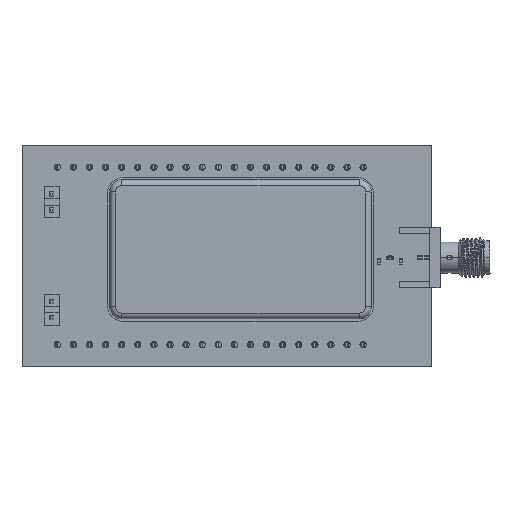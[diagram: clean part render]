
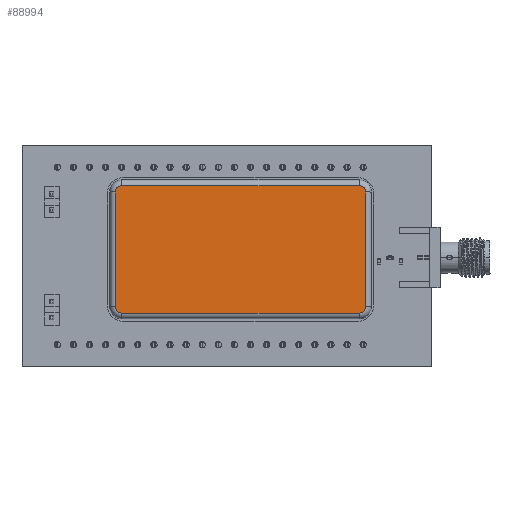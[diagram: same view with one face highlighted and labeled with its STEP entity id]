
A CAD part, top view. The second image highlights one B-rep face of the part: STEP entity #88994.
In plain terms, the highlighted planar face has unit normal (0, 0, 1) as drawn and (0, 1, 0) by its records, which use the part's own axes.
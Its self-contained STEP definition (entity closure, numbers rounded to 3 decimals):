
#88994 = ADVANCED_FACE('',(#88995),#89065,.F.);
#88995 = FACE_BOUND('',#88996,.T.);
#88996 = EDGE_LOOP('',(#88997,#89008,#89016,#89025,#89033,#89042,#89050,
    #89059));
#88997 = ORIENTED_EDGE('',*,*,#88998,.T.);
#88998 = EDGE_CURVE('',#88999,#89001,#89003,.T.);
#88999 = VERTEX_POINT('',#89000);
#89000 = CARTESIAN_POINT('',(10.05,0.2,-18.75));
#89001 = VERTEX_POINT('',#89002);
#89002 = CARTESIAN_POINT('',(9.05,0.2,-19.75));
#89003 = CIRCLE('',#89004,1.);
#89004 = AXIS2_PLACEMENT_3D('',#89005,#89006,#89007);
#89005 = CARTESIAN_POINT('',(9.05,0.2,-18.75));
#89006 = DIRECTION('',(0.,1.,0.));
#89007 = DIRECTION('',(1.,0.,0.));
#89008 = ORIENTED_EDGE('',*,*,#89009,.T.);
#89009 = EDGE_CURVE('',#89001,#89010,#89012,.T.);
#89010 = VERTEX_POINT('',#89011);
#89011 = CARTESIAN_POINT('',(-9.05,0.2,-19.75));
#89012 = LINE('',#89013,#89014);
#89013 = CARTESIAN_POINT('',(9.05,0.2,-19.75));
#89014 = VECTOR('',#89015,1.);
#89015 = DIRECTION('',(-1.,0.,0.));
#89016 = ORIENTED_EDGE('',*,*,#89017,.F.);
#89017 = EDGE_CURVE('',#89018,#89010,#89020,.T.);
#89018 = VERTEX_POINT('',#89019);
#89019 = CARTESIAN_POINT('',(-10.05,0.2,-18.75));
#89020 = CIRCLE('',#89021,1.);
#89021 = AXIS2_PLACEMENT_3D('',#89022,#89023,#89024);
#89022 = CARTESIAN_POINT('',(-9.05,0.2,-18.75));
#89023 = DIRECTION('',(0.,-1.,0.));
#89024 = DIRECTION('',(-1.,0.,0.));
#89025 = ORIENTED_EDGE('',*,*,#89026,.F.);
#89026 = EDGE_CURVE('',#89027,#89018,#89029,.T.);
#89027 = VERTEX_POINT('',#89028);
#89028 = CARTESIAN_POINT('',(-10.05,0.2,18.75));
#89029 = LINE('',#89030,#89031);
#89030 = CARTESIAN_POINT('',(-10.05,0.2,0.));
#89031 = VECTOR('',#89032,1.);
#89032 = DIRECTION('',(0.,0.,-1.));
#89033 = ORIENTED_EDGE('',*,*,#89034,.T.);
#89034 = EDGE_CURVE('',#89027,#89035,#89037,.T.);
#89035 = VERTEX_POINT('',#89036);
#89036 = CARTESIAN_POINT('',(-9.05,0.2,19.75));
#89037 = CIRCLE('',#89038,1.);
#89038 = AXIS2_PLACEMENT_3D('',#89039,#89040,#89041);
#89039 = CARTESIAN_POINT('',(-9.05,0.2,18.75));
#89040 = DIRECTION('',(0.,1.,0.));
#89041 = DIRECTION('',(-1.,0.,0.));
#89042 = ORIENTED_EDGE('',*,*,#89043,.F.);
#89043 = EDGE_CURVE('',#89044,#89035,#89046,.T.);
#89044 = VERTEX_POINT('',#89045);
#89045 = CARTESIAN_POINT('',(9.05,0.2,19.75));
#89046 = LINE('',#89047,#89048);
#89047 = CARTESIAN_POINT('',(9.05,0.2,19.75));
#89048 = VECTOR('',#89049,1.);
#89049 = DIRECTION('',(-1.,0.,0.));
#89050 = ORIENTED_EDGE('',*,*,#89051,.F.);
#89051 = EDGE_CURVE('',#89052,#89044,#89054,.T.);
#89052 = VERTEX_POINT('',#89053);
#89053 = CARTESIAN_POINT('',(10.05,0.2,18.75));
#89054 = CIRCLE('',#89055,1.);
#89055 = AXIS2_PLACEMENT_3D('',#89056,#89057,#89058);
#89056 = CARTESIAN_POINT('',(9.05,0.2,18.75));
#89057 = DIRECTION('',(0.,-1.,0.));
#89058 = DIRECTION('',(1.,0.,0.));
#89059 = ORIENTED_EDGE('',*,*,#89060,.T.);
#89060 = EDGE_CURVE('',#89052,#88999,#89061,.T.);
#89061 = LINE('',#89062,#89063);
#89062 = CARTESIAN_POINT('',(10.05,0.2,0.));
#89063 = VECTOR('',#89064,1.);
#89064 = DIRECTION('',(0.,0.,-1.));
#89065 = PLANE('',#89066);
#89066 = AXIS2_PLACEMENT_3D('',#89067,#89068,#89069);
#89067 = CARTESIAN_POINT('',(9.05,0.2,-18.75));
#89068 = DIRECTION('',(0.,-1.,0.));
#89069 = DIRECTION('',(0.,0.,-1.));
